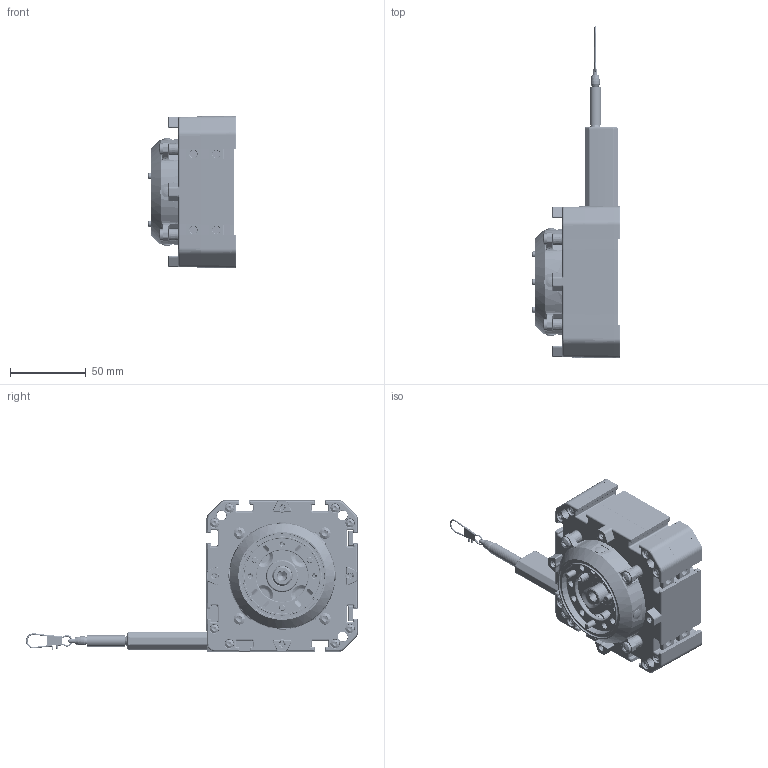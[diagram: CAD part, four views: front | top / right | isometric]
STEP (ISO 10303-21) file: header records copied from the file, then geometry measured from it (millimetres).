
FILE_DESCRIPTION((''),'2;1');
FILE_NAME('WPS-5000-K100-M_ASM','2025-07-24T10:05:45',('15000767'),(''),'CREO PARAMETRIC BY PTC INC, 2022164','CREO PARAMETRIC BY PTC INC, 2022164','');
FILE_SCHEMA(('AUTOMOTIVE_DESIGN { 1 0 10303 214 1 1 1 1 }'));
Products named in the file (40): TELESO_PRUZINY_K100_AF0; TB_K100_STANDARD_AF0; HRID_TESNENI_10X16X5; HRIDEL_MCS-100_M_AF0; KRYT_BUBINKU_K100_FORMA_AF0; VRUT_WN-1452_KT30X14_AF0; VRUT_WN-1452_KT30X14_AF1; VRUT_WN-1452_KT30X14_AF2; VRUT_WN-1452_KT30X14_AF3; VRUT_WN-1452_KT30X14_AF4; VRUT_WN-1452_KT30X14_AF5; VRUT_WN-1452_KT30X14_AF6; VRUT_WN-1452_KT30X14_AF7; VRUT_WN-1452_KT30X14_AF8; VRUT_WN-1452_KT30X14_AF9; VRUT_WN-1452_KT30X14_AF10; VRUT_WN-1452_KT30X14_AF11; VRUT_WN-1452_KT30X14_AF12; VRUT_WN-1452_KT30X14_AF13; VRUT_WN-1452_KT30X14_AF14; VRUT_WN-1452_KT30X14_AF15; APK_K100_AF0; VRUT_WN-1452_KT30X8_AF0; KOMINEK_K100_L50; DPK_MCS-100_5I2_P4; KERAMICKA_PRUCHODKA_0I7; KARABINKA_SPECIALNI; GP_7I5X2I0X25_EXT_EPDM60; KARABINKA_DORAZ_25_ASM; PRIRUBA_SYNCHRO_KXXX; SROUB_ISO4029_STAV_HEX_M3X3; PODLOZKA_M4_VEJIROVA; SROUB_DIN7985A_COCK_PZ_M4X10; VRUT_WN-1452_KT40X10; MATICE_4HRANNA_DIN562_M6_AF0; MATICE_4HRANNA_DIN562_M6_AF1; MATICE_4HRANNA_DIN562_M6_AF2; MATICE_4HRANNA_DIN562_M6_AF3; ZASLEPKA5_7X5X4I5; WPS-5000-K100-M_ASM
Assembly tree (49 placements, depth 3):
  WPS-5000-K100-M_ASM
    TELESO_PRUZINY_K100_AF0
    TB_K100_STANDARD_AF0
    HRID_TESNENI_10X16X5
    HRIDEL_MCS-100_M_AF0
    KRYT_BUBINKU_K100_FORMA_AF0
    VRUT_WN-1452_KT30X14_AF0
    VRUT_WN-1452_KT30X14_AF1
    VRUT_WN-1452_KT30X14_AF2
    VRUT_WN-1452_KT30X14_AF3
    VRUT_WN-1452_KT30X14_AF4
    VRUT_WN-1452_KT30X14_AF5
    VRUT_WN-1452_KT30X14_AF6
    VRUT_WN-1452_KT30X14_AF7
    VRUT_WN-1452_KT30X14_AF8
    VRUT_WN-1452_KT30X14_AF9
    VRUT_WN-1452_KT30X14_AF10
    VRUT_WN-1452_KT30X14_AF11
    VRUT_WN-1452_KT30X14_AF12
    VRUT_WN-1452_KT30X14_AF13
    VRUT_WN-1452_KT30X14_AF14
    VRUT_WN-1452_KT30X14_AF15
    APK_K100_AF0
    VRUT_WN-1452_KT30X8_AF0
    KOMINEK_K100_L50
    DPK_MCS-100_5I2_P4
    KERAMICKA_PRUCHODKA_0I7
    KARABINKA_DORAZ_25_ASM
      KARABINKA_SPECIALNI
      GP_7I5X2I0X25_EXT_EPDM60
    PRIRUBA_SYNCHRO_KXXX
    SROUB_ISO4029_STAV_HEX_M3X3
    PODLOZKA_M4_VEJIROVA  x3
    SROUB_DIN7985A_COCK_PZ_M4X10  x3
    VRUT_WN-1452_KT40X10  x4
    MATICE_4HRANNA_DIN562_M6_AF0
    MATICE_4HRANNA_DIN562_M6_AF1
    MATICE_4HRANNA_DIN562_M6_AF2
    MATICE_4HRANNA_DIN562_M6_AF3
    ZASLEPKA5_7X5X4I5  x4
Bounding box: 57.95 x 219.02 x 100.06 mm (x, y, z)
Volume: 103387.7 mm3; surface area: 117089.7 mm2
Topology: 47 solids, 47 shells, 4414 faces, 10669 edges, 6397 vertices
Faces by surface type: cylinder 1382, plane 1202, torus 753, cone 635, bspline 332, sphere 94, revolution 12, extrusion 4
Entity records: 183686 total; most frequent: CARTESIAN_POINT 49538, DIRECTION 20607, ORIENTED_EDGE 19440, PRESENTATION_STYLE_ASSIGNMENT 10952, STYLED_ITEM 10951, CURVE_STYLE 9724, EDGE_CURVE 9720, AXIS2_PLACEMENT_3D 8491
